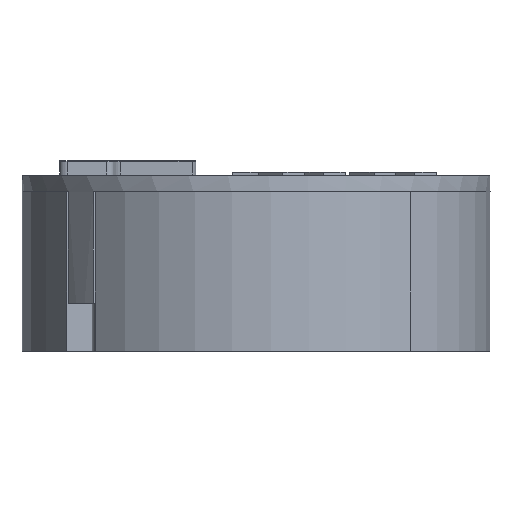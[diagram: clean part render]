
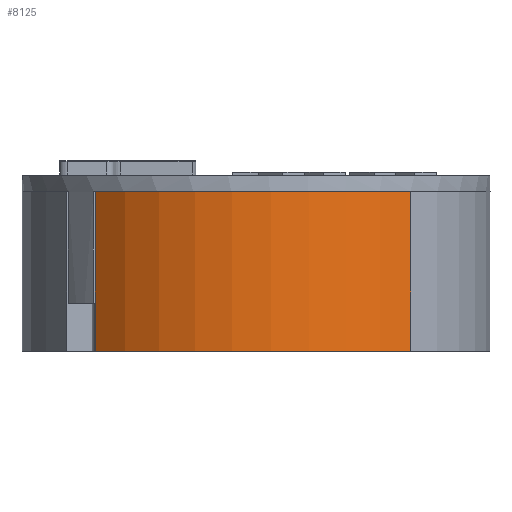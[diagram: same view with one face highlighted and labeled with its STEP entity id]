
A CAD part, left-side view. The second image highlights one B-rep face of the part: STEP entity #8125.
In plain terms, the highlighted cylindrical face has radius 22 mm (diameter 44 mm), a partial arc.
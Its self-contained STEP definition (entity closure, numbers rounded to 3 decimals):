
#723=FACE_OUTER_BOUND('',#1222,.T.);
#1222=EDGE_LOOP('',(#5905,#5906,#5907,#5908));
#1772=LINE('',#12940,#2558);
#1773=LINE('',#12944,#2559);
#2558=VECTOR('',#10226,1.);
#2559=VECTOR('',#10229,1.);
#3354=CIRCLE('',#9021,22.);
#3355=CIRCLE('',#9022,22.);
#3767=VERTEX_POINT('',#12938);
#3768=VERTEX_POINT('',#12939);
#3769=VERTEX_POINT('',#12941);
#3770=VERTEX_POINT('',#12943);
#4584=EDGE_CURVE('',#3767,#3768,#1772,.T.);
#4585=EDGE_CURVE('',#3767,#3769,#3354,.T.);
#4586=EDGE_CURVE('',#3770,#3769,#1773,.T.);
#4587=EDGE_CURVE('',#3770,#3768,#3355,.T.);
#5905=ORIENTED_EDGE('',*,*,#4584,.F.);
#5906=ORIENTED_EDGE('',*,*,#4585,.T.);
#5907=ORIENTED_EDGE('',*,*,#4586,.F.);
#5908=ORIENTED_EDGE('',*,*,#4587,.T.);
#7957=CYLINDRICAL_SURFACE('',#9020,22.);
#8125=ADVANCED_FACE('',(#723),#7957,.T.);
#9020=AXIS2_PLACEMENT_3D('',#12937,#10224,#10225);
#9021=AXIS2_PLACEMENT_3D('',#12942,#10227,#10228);
#9022=AXIS2_PLACEMENT_3D('',#12945,#10230,#10231);
#10224=DIRECTION('center_axis',(0.,0.,
-1.));
#10225=DIRECTION('ref_axis',(0.552,-0.834,0.));
#10226=DIRECTION('',(0.,0.,-1.));
#10227=DIRECTION('center_axis',(0.,0.,
-1.));
#10228=DIRECTION('ref_axis',(0.552,-0.834,0.));
#10229=DIRECTION('',(0.,0.,1.));
#10230=DIRECTION('center_axis',(0.,0.,
1.));
#10231=DIRECTION('ref_axis',(0.552,-0.834,0.));
#12937=CARTESIAN_POINT('Origin',(0.,0.,
366.));
#12938=CARTESIAN_POINT('',(-16.52,-14.529,381.));
#12939=CARTESIAN_POINT('',(-16.52,-14.529,366.));
#12940=CARTESIAN_POINT('',(-16.52,-14.529,366.));
#12941=CARTESIAN_POINT('',(-15.97,15.131,381.));
#12942=CARTESIAN_POINT('Origin',(0.,0.,
381.));
#12943=CARTESIAN_POINT('',(-15.97,15.131,366.));
#12944=CARTESIAN_POINT('',(-15.97,15.131,366.));
#12945=CARTESIAN_POINT('Origin',(0.,0.,
366.));
